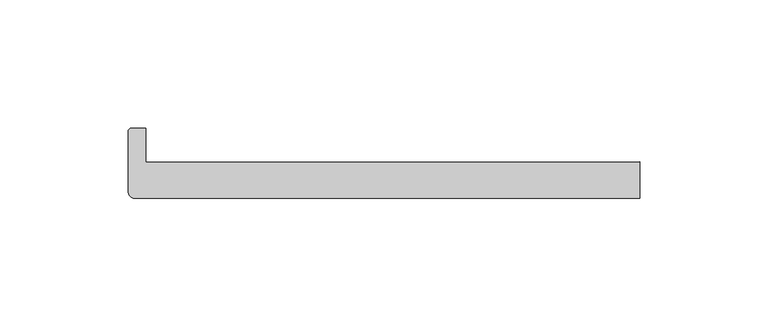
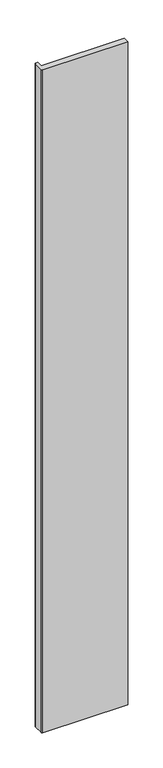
"""IFC4 building model written with IfcOpenShell, lengths in millimetres: plate geometry, Walls_Curtain-Walls_Danpal_NM : Walls_Curtain-Walls_Danpal_NM."""

from ifc_helpers import new_model, si_unit, point, frame_2d, origin, origin_with_axes, place, context, project, spatial, polyline, circle_curve, trimmed, segment, composite_curve, outline, extrude, source, transform, mapped, element, save


def plate_e771e062(model_context):
    return source(origin(), model_context, "Body", "SweptSolid", [
        extrude(outline(composite_curve([segment(polyline([(-92.9713805, 14.1225989), (99.9713805, 14.1283762), (99.9713805, 0.0), (-97.3204993, 0.0)]), True, "CONTINUOUS"), segment(trimmed(circle_curve(frame_2d((-97.3204993, 2.6508813)), 2.6508813), [point((-97.3204993, 0.0))], [point((-99.9713805, 2.6508813))], False, "CARTESIAN"), True, "CONTINUOUS"), segment(polyline([(-99.9713805, 2.6508813), (-99.9713805, 26.0669991)]), True, "CONTINUOUS"), segment(trimmed(circle_curve(frame_2d((-98.6459399, 26.0669991)), 1.3254406), [point((-99.9713805, 26.0669991))], [point((-98.6459399, 27.3924397))], False, "CARTESIAN"), True, "CONTINUOUS"), segment(polyline([(-98.6459399, 27.3924397), (-92.9713805, 27.3924397), (-92.9713805, 14.1225989)]), True, "CONTINUOUS")], self_intersect=False)), origin_with_axes(), (0.0, 0.0, 1.0), 1629.047587),
    ])


if __name__ == "__main__":
    model = new_model("IFC4")
    model_context = context("Model", 3, world=origin())
    ifc_project = project(units=[si_unit("LENGTHUNIT", "METRE", prefix="MILLI")], contexts=[model_context])
    site = spatial("IfcSite", under=ifc_project)
    building = spatial("IfcBuilding", under=site)
    placement = place(None, origin())
    plate_shape = plate_e771e062(model_context)
    element("IfcPlate", 1, ObjectType="Walls_Curtain-Walls_Danpal_NM : Walls_Curtain-Walls_Danpal_NM", at=placement, inside=building, context=model_context, shape_type="MappedRepresentation", body=[
        mapped(plate_shape, transform((0.0, 0.0, 0.0), x_axis=(1.0, 0.0, 0.0), y_axis=(0.0, 1.0, 0.0), z_axis=(0.0, 0.0, 1.0))),
    ])
    save(model, "model.ifc")
